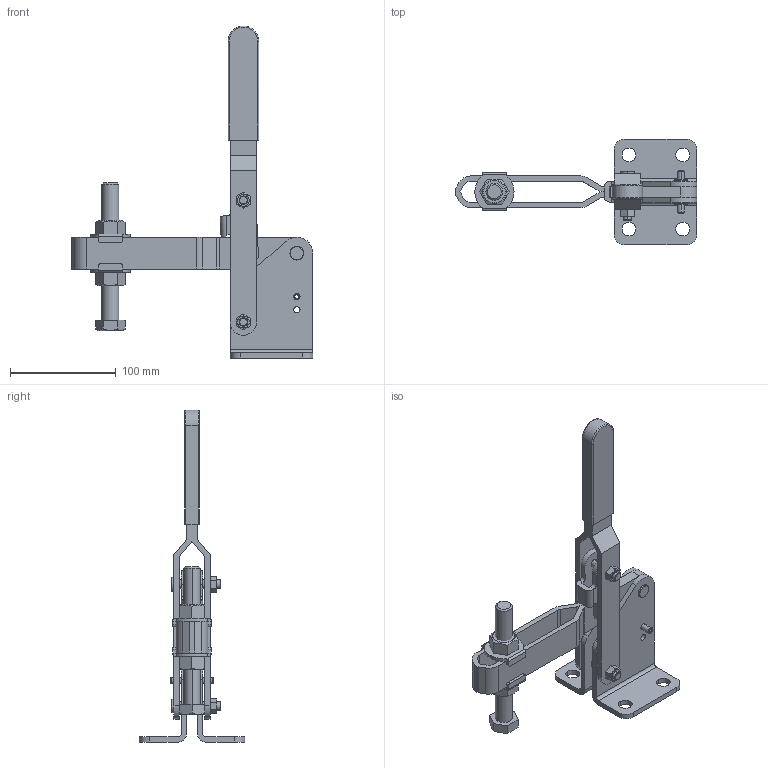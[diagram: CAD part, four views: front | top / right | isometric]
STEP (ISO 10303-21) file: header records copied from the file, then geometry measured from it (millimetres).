
FILE_DESCRIPTION(('CATIA V5 STEP Exchange'),'2;1');
FILE_NAME('D:\Model\toggle\toggle_standard\KJF_055_11F.stp','2005-06-24T05:17:31+00:00',('none'),('none'),'CATIA Version 5 Release 11 (IN-9)','CATIA V5 STEP AP203',' none');
FILE_SCHEMA(('CONFIG_CONTROL_DESIGN'));
Length unit declared in the file: millimetre
Products named in the file (1): Part1
Bounding box: 228 x 100 x 313.5 mm (x, y, z)
Volume: 335604.8 mm3; surface area: 140216.2 mm2
Topology: 17 solids, 17 shells, 339 faces, 857 edges, 560 vertices
Faces by surface type: plane 165, cylinder 134, cone 28, torus 10, bspline 2
Entity records: 10077 total; most frequent: CARTESIAN_POINT 2247, ORIENTED_EDGE 1714, DIRECTION 1313, EDGE_CURVE 857, AXIS2_PLACEMENT_3D 584, VERTEX_POINT 560, VECTOR 483, LINE 483
